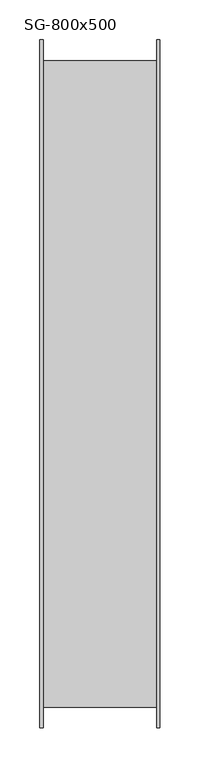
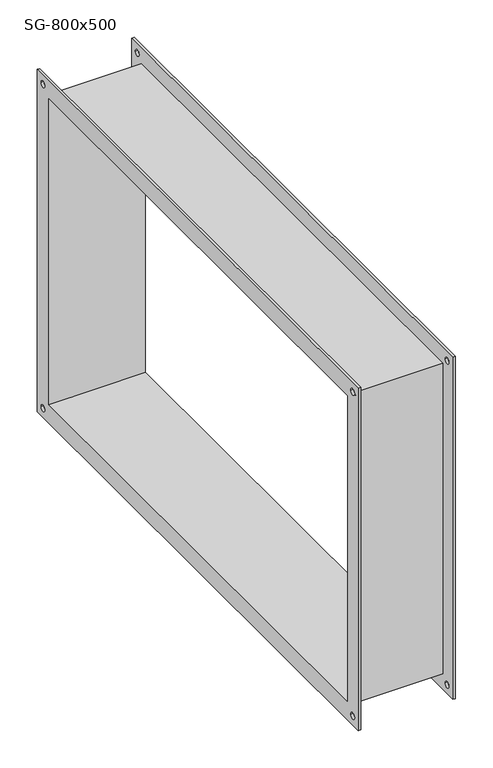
"""IFC4 building model written with IfcOpenShell, lengths in millimetres: damper geometry, СВ_ГибкаяВставка_КанальнаяПрямоугольная_200-1000_SG : SG-800x500."""

from ifc_helpers import new_model, si_unit, frame, origin, place, context, project, spatial, polyline, circle_curve, source, transform, mapped, element, save
from ifc_brep_helpers import plane_surface, revolved_surface, advanced_brep


def sg_800x500_95428ab8(model_context):
    return source(origin(), model_context, "Body", "AdvancedBrep", [
        advanced_brep(
        [(71.0, -404.0, 254.0), (-71.0, -404.0, 254.0), (-71.0, -404.0, -254.0), (71.0, -404.0, -254.0), (-71.0, 404.0, -254.0), (71.0, 404.0, -254.0), (-71.0, 404.0, 254.0), (71.0, 404.0, 254.0), (-75.0, -430.0, 280.0), (-75.0, 430.0, 280.0), (-75.0, 430.0, -280.0), (-75.0, -430.0, -280.0), (-75.0, -400.0, 250.0), (-75.0, -400.0, -250.0), (-75.0, 400.0, -250.0), (-75.0, 400.0, 250.0), (-75.0, 410.0, 265.0), (-75.0, 420.0, 265.0), (-75.0, 410.0, -265.0), (-75.0, 420.0, -265.0), (-75.0, -420.0, 265.0), (-75.0, -410.0, 265.0), (-75.0, -420.0, -265.0), (-75.0, -410.0, -265.0), (-71.0, -430.0, 280.0), (-71.0, -430.0, -280.0), (-71.0, 430.0, -280.0), (-71.0, 430.0, 280.0), (-71.0, 420.0, 265.0), (-71.0, 410.0, 265.0), (-71.0, 420.0, -265.0), (-71.0, 410.0, -265.0), (-71.0, -410.0, 265.0), (-71.0, -420.0, 265.0), (-71.0, -410.0, -265.0), (-71.0, -420.0, -265.0), (71.0, 430.0, 280.0), (71.0, 430.0, -280.0), (71.0, -430.0, -280.0), (71.0, -430.0, 280.0), (71.0, 410.0, 265.0), (71.0, 420.0, 265.0), (71.0, 410.0, -265.0), (71.0, 420.0, -265.0), (71.0, -420.0, 265.0), (71.0, -410.0, 265.0), (71.0, -420.0, -265.0), (71.0, -410.0, -265.0), (75.0, 430.0, 280.0), (75.0, -430.0, 280.0), (75.0, -430.0, -280.0), (75.0, 430.0, -280.0), (75.0, 400.0, 250.0), (75.0, 400.0, -250.0), (75.0, -400.0, -250.0), (75.0, -400.0, 250.0), (75.0, 420.0, 265.0), (75.0, 410.0, 265.0), (75.0, 420.0, -265.0), (75.0, 410.0, -265.0), (75.0, -410.0, 265.0), (75.0, -420.0, 265.0), (75.0, -410.0, -265.0), (75.0, -420.0, -265.0)],
        [
            (0, 1),
            (1, 2),
            (2, 3),
            (3, 0),
            (2, 4),
            (4, 5),
            (5, 3),
            (4, 6),
            (6, 7),
            (7, 5),
            (0, 7),
            (6, 1),
            (8, 9),
            (9, 10),
            (10, 11),
            (11, 8),
            (12, 13),
            (13, 14),
            (14, 15),
            (15, 12),
            (16, 17, circle_curve(frame((-75.0, 415.0, 265.0), z_axis=(1.0, 0.0, 0.0), x_axis=(0.0, 1.0, 0.0)), 5.0)),
            (17, 16, circle_curve(frame((-75.0, 415.0, 265.0), z_axis=(1.0, 0.0, 0.0), x_axis=(0.0, 1.0, 0.0)), 5.0)),
            (18, 19, circle_curve(frame((-75.0, 415.0, -265.0), z_axis=(1.0, 0.0, 0.0), x_axis=(0.0, 1.0, 0.0)), 5.0)),
            (19, 18, circle_curve(frame((-75.0, 415.0, -265.0), z_axis=(1.0, 0.0, 0.0), x_axis=(0.0, 1.0, 0.0)), 5.0)),
            (20, 21, circle_curve(frame((-75.0, -415.0, 265.0), z_axis=(1.0, 0.0, 0.0), x_axis=(0.0, 1.0, 0.0)), 5.0)),
            (21, 20, circle_curve(frame((-75.0, -415.0, 265.0), z_axis=(1.0, 0.0, 0.0), x_axis=(0.0, 1.0, 0.0)), 5.0)),
            (22, 23, circle_curve(frame((-75.0, -415.0, -265.0), z_axis=(1.0, 0.0, 0.0), x_axis=(0.0, 1.0, 0.0)), 5.0)),
            (23, 22, circle_curve(frame((-75.0, -415.0, -265.0), z_axis=(1.0, 0.0, 0.0), x_axis=(0.0, 1.0, 0.0)), 5.0)),
            (24, 25),
            (25, 26),
            (26, 27),
            (27, 24),
            (28, 29, circle_curve(frame((-71.0, 415.0, 265.0), z_axis=(-1.0, 0.0, 0.0), x_axis=(0.0, 1.0, 0.0)), 5.0)),
            (29, 28, circle_curve(frame((-71.0, 415.0, 265.0), z_axis=(-1.0, 0.0, 0.0), x_axis=(0.0, 1.0, 0.0)), 5.0)),
            (30, 31, circle_curve(frame((-71.0, 415.0, -265.0), z_axis=(-1.0, 0.0, 0.0), x_axis=(0.0, 1.0, 0.0)), 5.0)),
            (31, 30, circle_curve(frame((-71.0, 415.0, -265.0), z_axis=(-1.0, 0.0, 0.0), x_axis=(0.0, 1.0, 0.0)), 5.0)),
            (32, 33, circle_curve(frame((-71.0, -415.0, 265.0), z_axis=(-1.0, 0.0, 0.0), x_axis=(0.0, 1.0, 0.0)), 5.0)),
            (33, 32, circle_curve(frame((-71.0, -415.0, 265.0), z_axis=(-1.0, 0.0, 0.0), x_axis=(0.0, 1.0, 0.0)), 5.0)),
            (34, 35, circle_curve(frame((-71.0, -415.0, -265.0), z_axis=(-1.0, 0.0, 0.0), x_axis=(0.0, 1.0, 0.0)), 5.0)),
            (35, 34, circle_curve(frame((-71.0, -415.0, -265.0), z_axis=(-1.0, 0.0, 0.0), x_axis=(0.0, 1.0, 0.0)), 5.0)),
            (11, 25),
            (24, 8),
            (10, 26),
            (9, 27),
            (36, 37),
            (37, 38),
            (38, 39),
            (39, 36),
            (40, 41, circle_curve(frame((71.0, 415.0, 265.0), z_axis=(1.0, 0.0, 0.0), x_axis=(0.0, 1.0, 0.0)), 5.0)),
            (41, 40, circle_curve(frame((71.0, 415.0, 265.0), z_axis=(1.0, 0.0, 0.0), x_axis=(0.0, 1.0, 0.0)), 5.0)),
            (42, 43, circle_curve(frame((71.0, 415.0, -265.0), z_axis=(1.0, 0.0, 0.0), x_axis=(0.0, 1.0, 0.0)), 5.0)),
            (43, 42, circle_curve(frame((71.0, 415.0, -265.0), z_axis=(1.0, 0.0, 0.0), x_axis=(0.0, 1.0, 0.0)), 5.0)),
            (44, 45, circle_curve(frame((71.0, -415.0, 265.0), z_axis=(1.0, 0.0, 0.0), x_axis=(0.0, 1.0, 0.0)), 5.0)),
            (45, 44, circle_curve(frame((71.0, -415.0, 265.0), z_axis=(1.0, 0.0, 0.0), x_axis=(0.0, 1.0, 0.0)), 5.0)),
            (46, 47, circle_curve(frame((71.0, -415.0, -265.0), z_axis=(1.0, 0.0, 0.0), x_axis=(0.0, 1.0, 0.0)), 5.0)),
            (47, 46, circle_curve(frame((71.0, -415.0, -265.0), z_axis=(1.0, 0.0, 0.0), x_axis=(0.0, 1.0, 0.0)), 5.0)),
            (48, 49),
            (49, 50),
            (50, 51),
            (51, 48),
            (52, 53),
            (53, 54),
            (54, 55),
            (55, 52),
            (56, 57, circle_curve(frame((75.0, 415.0, 265.0), z_axis=(-1.0, 0.0, 0.0), x_axis=(0.0, 1.0, 0.0)), 5.0)),
            (57, 56, circle_curve(frame((75.0, 415.0, 265.0), z_axis=(-1.0, 0.0, 0.0), x_axis=(0.0, 1.0, 0.0)), 5.0)),
            (58, 59, circle_curve(frame((75.0, 415.0, -265.0), z_axis=(-1.0, 0.0, 0.0), x_axis=(0.0, 1.0, 0.0)), 5.0)),
            (59, 58, circle_curve(frame((75.0, 415.0, -265.0), z_axis=(-1.0, 0.0, 0.0), x_axis=(0.0, 1.0, 0.0)), 5.0)),
            (60, 61, circle_curve(frame((75.0, -415.0, 265.0), z_axis=(-1.0, 0.0, 0.0), x_axis=(0.0, 1.0, 0.0)), 5.0)),
            (61, 60, circle_curve(frame((75.0, -415.0, 265.0), z_axis=(-1.0, 0.0, 0.0), x_axis=(0.0, 1.0, 0.0)), 5.0)),
            (62, 63, circle_curve(frame((75.0, -415.0, -265.0), z_axis=(-1.0, 0.0, 0.0), x_axis=(0.0, 1.0, 0.0)), 5.0)),
            (63, 62, circle_curve(frame((75.0, -415.0, -265.0), z_axis=(-1.0, 0.0, 0.0), x_axis=(0.0, 1.0, 0.0)), 5.0)),
            (39, 49),
            (48, 36),
            (38, 50),
            (37, 51),
            (15, 52),
            (55, 12),
            (14, 53),
            (13, 54),
            (16, 29),
            (28, 17),
            (40, 57),
            (56, 41),
            (18, 31),
            (30, 19),
            (42, 59),
            (58, 43),
            (20, 33),
            (32, 21),
            (44, 61),
            (60, 45),
            (22, 35),
            (34, 23),
            (46, 63),
            (62, 47),
        ],
        [
            plane_surface(frame((71.0, -404.0, 254.0), z_axis=(0.0, -1.0, 0.0), x_axis=(-1.0, 0.0, 0.0))),
            plane_surface(frame((71.0, -404.0, -254.0), z_axis=(0.0, 0.0, -1.0), x_axis=(-1.0, 0.0, 0.0))),
            plane_surface(frame((71.0, 404.0, -254.0), z_axis=(0.0, 1.0, 0.0), x_axis=(-1.0, 0.0, 0.0))),
            plane_surface(frame((71.0, 404.0, 254.0), z_axis=(0.0, 0.0, 1.0), x_axis=(-1.0, 0.0, 0.0))),
            plane_surface(frame((-75.0, -430.0, 280.0), z_axis=(-1.0, 0.0, 0.0), x_axis=(0.0, 0.0, 1.0))),
            plane_surface(frame((-71.0, -430.0, 280.0), z_axis=(1.0, 0.0, 0.0), x_axis=(0.0, 0.0, -1.0))),
            plane_surface(frame((-71.0, -430.0, 280.0), z_axis=(0.0, -1.0, 0.0), x_axis=(-1.0, 0.0, 0.0))),
            plane_surface(frame((-71.0, -430.0, -280.0), z_axis=(0.0, 0.0, -1.0), x_axis=(-1.0, 0.0, 0.0))),
            plane_surface(frame((-71.0, 430.0, -280.0), z_axis=(0.0, 1.0, 0.0), x_axis=(-1.0, 0.0, 0.0))),
            plane_surface(frame((-71.0, 430.0, 280.0), z_axis=(0.0, 0.0, 1.0), x_axis=(-1.0, 0.0, 0.0))),
            plane_surface(frame((71.0, 400.0, -250.0), z_axis=(-1.0, 0.0, 0.0), x_axis=(0.0, 0.0, 1.0))),
            plane_surface(frame((75.0, 400.0, -250.0), z_axis=(1.0, 0.0, 0.0), x_axis=(0.0, 0.0, -1.0))),
            plane_surface(frame((75.0, 430.0, 280.0), z_axis=(0.0, 0.0, 1.0), x_axis=(-1.0, 0.0, 0.0))),
            plane_surface(frame((75.0, -430.0, 280.0), z_axis=(0.0, -1.0, 0.0), x_axis=(-1.0, 0.0, 0.0))),
            plane_surface(frame((75.0, -430.0, -280.0), z_axis=(0.0, 0.0, -1.0), x_axis=(-1.0, 0.0, 0.0))),
            plane_surface(frame((75.0, 430.0, -280.0), z_axis=(0.0, 1.0, 0.0), x_axis=(-1.0, 0.0, 0.0))),
            plane_surface(frame((-71.0, -400.0, 250.0), z_axis=(0.0, 0.0, -1.0), x_axis=(-1.0, 0.0, 0.0))),
            plane_surface(frame((-71.0, 400.0, 250.0), z_axis=(0.0, -1.0, 0.0), x_axis=(-1.0, 0.0, 0.0))),
            plane_surface(frame((-71.0, 400.0, -250.0), z_axis=(0.0, 0.0, 1.0), x_axis=(-1.0, 0.0, 0.0))),
            plane_surface(frame((-71.0, -400.0, -250.0), z_axis=(0.0, 1.0, 0.0), x_axis=(-1.0, 0.0, 0.0))),
            revolved_surface(polyline([(-71.0, 420.0, 265.0), (-75.0, 420.0, 265.0)]), (-75.0, 415.0, 265.0), (1.0, 0.0, 0.0)),
            revolved_surface(polyline([(75.0, 420.0, 265.0), (71.0, 420.0, 265.0)]), (-75.0, 415.0, 265.0), (1.0, 0.0, 0.0)),
            revolved_surface(polyline([(-71.0, 420.0, -265.0), (-75.0, 420.0, -265.0)]), (0.0, 415.0, -265.0), (1.0, 0.0, 0.0)),
            revolved_surface(polyline([(75.0, 420.0, -265.0), (71.0, 420.0, -265.0)]), (0.0, 415.0, -265.0), (1.0, 0.0, 0.0)),
            revolved_surface(polyline([(-71.0, -410.0, 265.0), (-75.0, -410.0, 265.0)]), (0.0, -415.0, 265.0), (1.0, 0.0, 0.0)),
            revolved_surface(polyline([(75.0, -410.0, 265.0), (71.0, -410.0, 265.0)]), (0.0, -415.0, 265.0), (1.0, 0.0, 0.0)),
            revolved_surface(polyline([(-71.0, -410.0, -265.0), (-75.0, -410.0, -265.0)]), (0.0, -415.0, -265.0), (1.0, 0.0, 0.0)),
            revolved_surface(polyline([(75.0, -410.0, -265.0), (71.0, -410.0, -265.0)]), (0.0, -415.0, -265.0), (1.0, 0.0, 0.0)),
        ],
        [
            (0, [[1, 2, 3, 4]]),
            (1, [[-3, 5, 6, 7]]),
            (2, [[-6, 8, 9, 10]]),
            (3, [[-1, 11, -9, 12]]),
            (4, [[13, 14, 15, 16], [17, 18, 19, 20], [21, 22], [23, 24], [25, 26], [27, 28]]),
            (5, [[29, 30, 31, 32], [-2, -12, -8, -5], [33, 34], [35, 36], [37, 38], [39, 40]]),
            (6, [[-16, 41, -29, 42]]),
            (7, [[-15, 43, -30, -41]]),
            (8, [[-14, 44, -31, -43]]),
            (9, [[-13, -42, -32, -44]]),
            (10, [[45, 46, 47, 48], [-4, -7, -10, -11], [49, 50], [51, 52], [53, 54], [55, 56]]),
            (11, [[57, 58, 59, 60], [61, 62, 63, 64], [65, 66], [67, 68], [69, 70], [71, 72]]),
            (12, [[-48, 73, -57, 74]]),
            (13, [[-47, 75, -58, -73]]),
            (14, [[-46, 76, -59, -75]]),
            (15, [[-45, -74, -60, -76]]),
            (16, [[-20, 77, -64, 78]]),
            (17, [[-77, -19, 79, -61]]),
            (18, [[-79, -18, 80, -62]]),
            (19, [[-80, -17, -78, -63]]),
            (20, [[81, -33, 82, -21]]),
            (21, [[83, -65, 84, -49]]),
            (20, [[-81, -22, -82, -34]]),
            (21, [[-83, -50, -84, -66]]),
            (22, [[85, -35, 86, -23]]),
            (23, [[87, -67, 88, -51]]),
            (22, [[-85, -24, -86, -36]]),
            (23, [[-87, -52, -88, -68]]),
            (24, [[89, -37, 90, -25]]),
            (25, [[91, -69, 92, -53]]),
            (24, [[-89, -26, -90, -38]]),
            (25, [[-91, -54, -92, -70]]),
            (26, [[93, -39, 94, -27]]),
            (27, [[95, -71, 96, -55]]),
            (26, [[-93, -28, -94, -40]]),
            (27, [[-95, -56, -96, -72]]),
        ],
    ),
    ])


if __name__ == "__main__":
    model = new_model("IFC4")
    model_context = context("Model", 3, world=origin())
    ifc_project = project(units=[si_unit("LENGTHUNIT", "METRE", prefix="MILLI")], contexts=[model_context])
    site = spatial("IfcSite", under=ifc_project)
    building = spatial("IfcBuilding", under=site)
    placement = place(None, origin())
    sg_800x500_shape = sg_800x500_95428ab8(model_context)
    element("IfcDamper", 1, ObjectType="СВ_ГибкаяВставка_КанальнаяПрямоугольная_200-1000_SG : SG-800x500", at=placement, inside=building, context=model_context, shape_type="MappedRepresentation", body=[
        mapped(sg_800x500_shape, transform((0.0, 0.0, 0.0), x_axis=(1.0, 0.0, 0.0), y_axis=(0.0, 1.0, 0.0), z_axis=(0.0, 0.0, 1.0))),
    ])
    save(model, "model.ifc")
